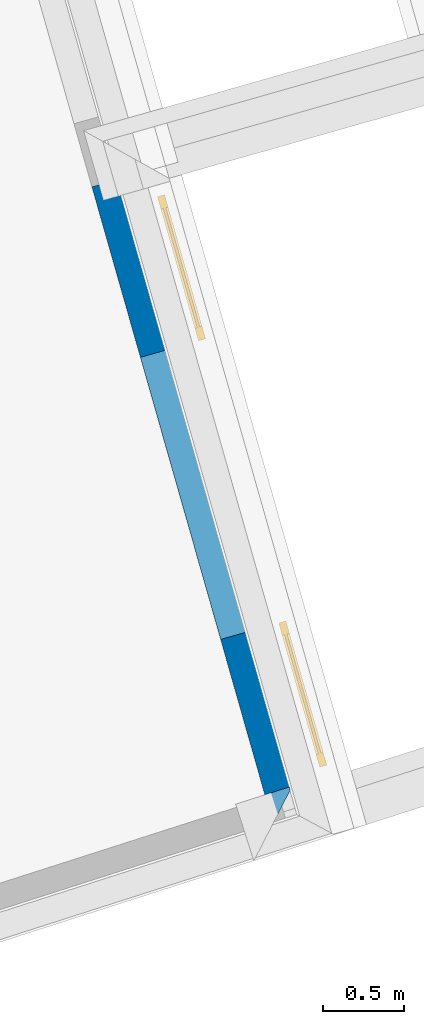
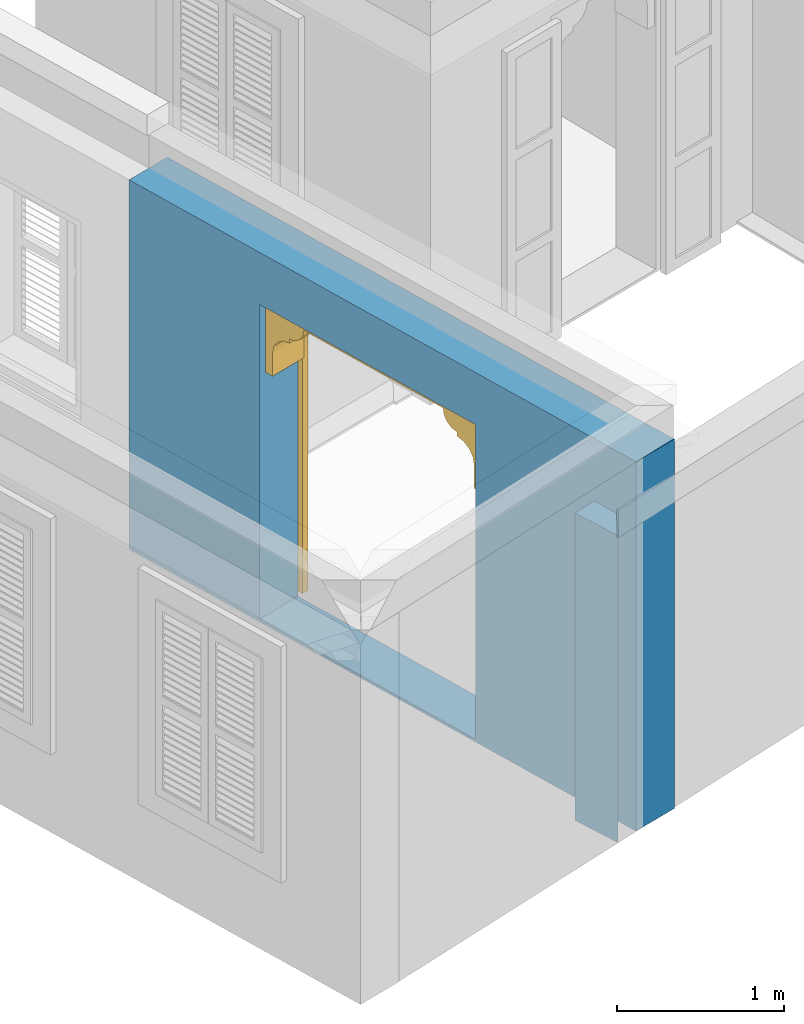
# One storey, part 2 of 13: 2 walls, 1 door, 1 opening.
"""IFC4 building model written with IfcOpenShell, lengths in metres."""

from ifc_helpers import new_model, si_unit, frame, origin, origin_with_axes, place, context, subcontext, project, spatial, polyline, outline, extrude, clip, halfspace, faceted_brep, source, transform, mapped, material, layer, layer_set, layer_usage, material_profile, profile_set, profile_usage, type_object, type_shapes, element, fill, save


model = new_model("IFC4")

# Units and contexts
model_context = context("Model", 3, world=origin_with_axes())
body_context = subcontext(model_context, "Body", "Model", "MODEL_VIEW")
ifc_project = project(units=[si_unit("PLANEANGLEUNIT", "RADIAN"), si_unit("MASSUNIT", "GRAM", prefix="KILO"), si_unit("FORCEUNIT", "NEWTON", prefix="KILO"), si_unit("LENGTHUNIT", "METRE"), si_unit("AREAUNIT", "SQUARE_METRE"), si_unit("VOLUMEUNIT", "CUBIC_METRE")], contexts=[model_context, model_context])

# Site, building, storey
site_placement = place(None, origin_with_axes())
site = spatial("IfcSite", under=ifc_project, at=site_placement, Name="Site plot-3", CompositionType="ELEMENT")
building_placement = place(None, origin_with_axes())
building = spatial("IfcBuilding", under=site, at=building_placement, Name="Building plot-3", CompositionType="ELEMENT")
storey_placement = place(None, frame((0.0, 0.0, 3.3), z_axis=(0.0, 0.0, 1.0), x_axis=(1.0, 0.0, 0.0)))
storey = spatial("IfcBuildingStorey", under=building, at=storey_placement, Name="plot-3 1", CompositionType="ELEMENT", Elevation=3.3)

# Wall, opening, door
ifc_material = material(Name="Masonry")
ifc_layer = layer(ifc_material, 0.33, ventilated=False)
ifc_layer_set = layer_set([ifc_layer], Name="exterior_0.08_0.25")
ifc_layer_usage = layer_usage(ifc_layer_set, "AXIS2", "POSITIVE", -0.25)
wall_type_1 = type_object("IfcWallType", Name="exterior_0.08_0.25", PredefinedType="SOLIDWALL", material=ifc_layer_set)
wall_1_placement = place(storey_placement, frame((12.6927444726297, 15.8757217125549, 0.0), z_axis=(0.0, 0.0, 1.0), x_axis=(-0.273606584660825, 0.961841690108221, 0.0)))
wall_1 = element("IfcWall", 1, at=wall_1_placement, inside=storey, type_object=wall_type_1, material=ifc_layer_usage, Name="exterior", context=body_context, shape_type="SweptSolid", body=[
    extrude(outline(polyline([(-0.25, 0.0800000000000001), (-0.25, -0.25), (3.97731813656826, -0.250000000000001), (3.97731813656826, 0.0800000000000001), (-0.25, 0.0800000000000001)])), origin_with_axes(), (0.0, 0.0, 1.0), 2.7),
])
opening_placement = place(wall_1_placement, frame((1.08865906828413, 0.0, 0.02)))
opening = element("IfcOpeningElement", 2, at=opening_placement, cuts=wall_1, Name="My Opening", ObjectType="Opening", context=body_context, shape_type="SweptSolid", body=[
    extrude(outline(polyline([(0.0, -0.270000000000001), (1.8, -0.27), (1.8, 1.1), (-1.99840144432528e-15, 1.1), (0.0, -0.270000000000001)])), origin_with_axes(), (0.0, 0.0, 1.0), 2.3),
])
door_type = type_object("IfcDoorType", Name="arch-1800x2300", OperationType="SINGLE_SWING_LEFT", PredefinedType="NOTDEFINED")
shared_shape = source(origin(), body_context, "Body", "Brep", [
    faceted_brep([(-0.08, -0.02, 0.08), (-0.08, -0.02, 0.0), (-0.84, -0.02, 0.0), (-0.84, -0.02, 0.08), (-0.92, -0.02, 0.0), (-0.92, -0.02, 0.08), (-0.84, -0.035, 0.08), (-0.08, -0.035, 0.08), (0.0, -0.02, 0.08), (0.0, -0.02, 0.0), (-0.08, -0.066, 0.0), (-0.84, -0.066, 0.0), (-0.92, -0.066, 0.0), (-0.92, -0.066, 0.08), (-0.84, -0.02, 0.743333), (-0.92, -0.02, 0.743333), (-0.84, -0.035, 0.743333), (-0.08, -0.035, 0.743333), (-0.08, -0.02, 0.743333), (0.0, -0.02, 0.743333), (0.0, -0.066, 0.08), (0.0, -0.066, 0.0), (-0.84, -0.066, 0.08), (-0.08, -0.066, 0.08), (-0.92, -0.066, 0.743333), (-0.84, -0.02, 0.823333), (-0.92, -0.02, 0.823333), (0.0, -0.066, 0.743333), (0.0, -0.02, 0.823333), (-0.08, -0.02, 0.823333), (-0.08, -0.051, 0.08), (-0.84, -0.051, 0.08), (-0.84, -0.066, 0.743333), (-0.92, -0.066, 0.823333), (-0.84, -0.02, 1.486667), (-0.92, -0.02, 1.486667), (0.0, -0.066, 0.823333), (-0.08, -0.066, 0.743333), (0.0, -0.02, 1.486667), (-0.08, -0.02, 1.486667), (-0.08, -0.051, 0.743333), (-0.84, -0.051, 0.743333), (-0.84, -0.066, 0.823333), (-0.92, -0.066, 1.486667), (-0.84, -0.035, 0.823333), (-0.08, -0.035, 0.823333), (-0.84, -0.035, 1.486667), (-0.84, -0.02, 1.566667), (-0.92, -0.02, 1.566667), (0.0, -0.066, 1.486667), (-0.08, -0.066, 0.823333), (-0.08, -0.035, 1.486667), (0.0, -0.02, 1.566667), (-0.08, -0.02, 1.566667), (-0.84, -0.066, 1.486667), (-0.92, -0.066, 1.566667), (-0.84, -0.02, 2.23), (-0.92, -0.02, 2.23), (0.0, -0.066, 1.566667), (-0.08, -0.066, 1.486667), (0.0, -0.02, 2.23), (-0.08, -0.02, 2.23), (-0.08, -0.051, 0.823333), (-0.84, -0.051, 0.823333), (-0.84, -0.051, 1.486667), (-0.84, -0.066, 1.566667), (-0.92, -0.066, 2.23), (-0.84, -0.035, 1.566667), (-0.08, -0.035, 1.566667), (-0.84, -0.035, 2.23), (-0.84, -0.02, 2.31), (-0.92, -0.02, 2.31), (0.0, -0.066, 2.23), (-0.08, -0.066, 1.566667), (-0.08, -0.051, 1.486667), (-0.08, -0.035, 2.23), (0.0, -0.02, 2.31), (-0.08, -0.02, 2.31), (-0.84, -0.066, 2.23), (-0.92, -0.066, 2.31), (-0.84, -0.066, 2.31), (0.0, -0.066, 2.31), (-0.08, -0.066, 2.23), (-0.08, -0.066, 2.31), (-0.08, -0.051, 1.566667), (-0.84, -0.051, 1.566667), (-0.84, -0.051, 2.23), (-0.08, -0.051, 2.23), (2.64, -0.02, 0.08), (2.64, -0.02, 0.0), (1.88, -0.02, 0.0), (1.88, -0.02, 0.08), (2.72, -0.02, 0.08), (2.72, -0.02, 0.0), (1.88, -0.035, 0.08), (2.64, -0.035, 0.08), (1.8, -0.02, 0.0), (1.8, -0.02, 0.08), (2.64, -0.066, 0.0), (1.88, -0.066, 0.0), (2.72, -0.066, 0.08), (2.72, -0.066, 0.0), (2.72, -0.02, 0.743333), (2.64, -0.02, 0.743333), (2.64, -0.035, 0.743333), (1.88, -0.035, 0.743333), (1.88, -0.02, 0.743333), (1.8, -0.02, 0.743333), (1.8, -0.066, 0.0), (1.8, -0.066, 0.08), (1.88, -0.066, 0.08), (2.64, -0.066, 0.08), (2.72, -0.066, 0.743333), (2.72, -0.02, 0.823333), (2.64, -0.02, 0.823333), (1.8, -0.066, 0.743333), (1.88, -0.02, 0.823333), (1.8, -0.02, 0.823333), (2.64, -0.051, 0.08), (1.88, -0.051, 0.08), (2.64, -0.066, 0.743333), (2.72, -0.066, 0.823333), (2.72, -0.02, 1.486667), (2.64, -0.02, 1.486667), (1.8, -0.066, 0.823333), (1.88, -0.066, 0.743333), (1.88, -0.02, 1.486667), (1.8, -0.02, 1.486667), (1.88, -0.051, 0.743333), (2.64, -0.051, 0.743333), (2.64, -0.066, 0.823333), (2.72, -0.066, 1.486667), (1.88, -0.035, 0.823333), (2.64, -0.035, 0.823333), (2.64, -0.035, 1.486667), (2.72, -0.02, 1.566667), (2.64, -0.02, 1.566667), (1.8, -0.066, 1.486667), (1.88, -0.066, 0.823333), (1.88, -0.035, 1.486667), (1.88, -0.02, 1.566667), (1.8, -0.02, 1.566667), (2.64, -0.066, 1.486667), (2.72, -0.066, 1.566667), (2.72, -0.02, 2.23), (2.64, -0.02, 2.23), (1.8, -0.066, 1.566667), (1.88, -0.066, 1.486667), (1.88, -0.02, 2.23), (1.8, -0.02, 2.23), (2.64, -0.051, 0.823333), (1.88, -0.051, 0.823333), (2.64, -0.051, 1.486667), (2.64, -0.066, 1.566667), (2.72, -0.066, 2.23), (1.88, -0.035, 1.566667), (2.64, -0.035, 1.566667), (2.64, -0.035, 2.23), (2.72, -0.02, 2.31), (2.64, -0.02, 2.31), (1.8, -0.066, 2.23), (1.88, -0.066, 1.566667), (1.88, -0.051, 1.486667), (1.88, -0.035, 2.23), (1.88, -0.02, 2.31), (1.8, -0.02, 2.31), (2.64, -0.066, 2.23), (2.72, -0.066, 2.31), (2.64, -0.066, 2.31), (1.8, -0.066, 2.31), (1.88, -0.066, 2.23), (1.88, -0.066, 2.31), (2.64, -0.051, 1.566667), (1.88, -0.051, 1.566667), (2.64, -0.051, 2.23), (1.88, -0.051, 2.23), (1.8, 0.03, 1.78), (1.8, 0.03, 1.95), (1.74, 0.03, 1.95), (1.74, 0.03, 1.78), (1.74, 0.3, 1.95), (1.74, 0.3, 1.78), (1.8, 0.03, 2.12), (1.729, 0.03, 2.004), (1.8, 0.3, 1.78), (1.8, 0.3, 1.95), (1.729, 0.3, 2.004), (1.699, 0.03, 2.049), (1.8, 0.3, 2.12), (1.699, 0.3, 2.049), (1.654, 0.03, 2.079), (1.8, 0.3, 2.29), (1.8, 0.03, 2.29), (1.654, 0.3, 2.079), (1.6, 0.03, 2.09), (1.6, 0.03, 2.12), (1.554, 0.03, 2.129), (1.48, 0.3, 2.29), (1.48, 0.03, 2.29), (1.6, 0.3, 2.12), (1.554, 0.3, 2.129), (1.6, 0.3, 2.09), (1.515, 0.03, 2.155), (1.489, 0.3, 2.194), (1.48, 0.3, 2.24), (1.48, 0.03, 2.24), (1.489, 0.03, 2.194), (1.515, 0.3, 2.155), (0.06, 0.03, 1.78), (0.06, 0.03, 1.95), (0.0, 0.03, 1.95), (0.0, 0.03, 1.78), (0.06, 0.3, 1.78), (0.06, 0.3, 1.95), (0.071, 0.03, 2.004), (0.0, 0.03, 2.12), (0.0, 0.3, 1.95), (0.0, 0.3, 1.78), (0.071, 0.3, 2.004), (0.101, 0.03, 2.049), (0.0, 0.3, 2.12), (0.101, 0.3, 2.049), (0.146, 0.03, 2.079), (0.0, 0.03, 2.29), (0.0, 0.3, 2.29), (0.146, 0.3, 2.079), (0.2, 0.03, 2.12), (0.2, 0.03, 2.09), (0.246, 0.03, 2.129), (0.32, 0.03, 2.29), (0.32, 0.3, 2.29), (0.246, 0.3, 2.129), (0.2, 0.3, 2.12), (0.2, 0.3, 2.09), (0.285, 0.03, 2.155), (0.32, 0.3, 2.24), (0.311, 0.3, 2.194), (0.311, 0.03, 2.194), (0.32, 0.03, 2.24), (0.285, 0.3, 2.155)], [[[0, 1, 2, 3]], [[4, 5, 3, 2]], [[0, 3, 6, 7]], [[1, 0, 8, 9]], [[2, 1, 10, 11]], [[5, 4, 12, 13]], [[14, 3, 5, 15]], [[4, 2, 11, 12]], [[3, 14, 16, 6]], [[6, 16, 17, 7]], [[18, 0, 7, 17]], [[0, 18, 19, 8]], [[9, 8, 20, 21]], [[1, 9, 21, 10]], [[22, 11, 10, 23]], [[13, 12, 11, 22]], [[15, 5, 13, 24]], [[25, 14, 15, 26]], [[14, 18, 17, 16]], [[8, 19, 27, 20]], [[28, 19, 18, 29]], [[23, 10, 21, 20]], [[22, 23, 30, 31]], [[22, 32, 24, 13]], [[26, 15, 24, 33]], [[29, 18, 14, 25]], [[34, 25, 26, 35]], [[19, 28, 36, 27]], [[20, 27, 37, 23]], [[38, 28, 29, 39]], [[23, 37, 40, 30]], [[41, 31, 30, 40]], [[32, 22, 31, 41]], [[32, 42, 33, 24]], [[35, 26, 33, 43]], [[29, 25, 44, 45]], [[25, 34, 46, 44]], [[47, 34, 35, 48]], [[28, 38, 49, 36]], [[27, 36, 50, 37]], [[39, 29, 45, 51]], [[52, 38, 39, 53]], [[37, 32, 41, 40]], [[37, 50, 42, 32]], [[42, 54, 43, 33]], [[48, 35, 43, 55]], [[44, 46, 51, 45]], [[34, 39, 51, 46]], [[34, 47, 53, 39]], [[56, 47, 48, 57]], [[38, 52, 58, 49]], [[36, 49, 59, 50]], [[60, 52, 53, 61]], [[42, 50, 62, 63]], [[54, 42, 63, 64]], [[54, 65, 55, 43]], [[57, 48, 55, 66]], [[53, 47, 67, 68]], [[47, 56, 69, 67]], [[70, 56, 57, 71]], [[52, 60, 72, 58]], [[49, 58, 73, 59]], [[50, 59, 74, 62]], [[61, 53, 68, 75]], [[76, 60, 61, 77]], [[64, 63, 62, 74]], [[59, 54, 64, 74]], [[65, 54, 59, 73]], [[65, 78, 66, 55]], [[71, 57, 66, 79]], [[67, 69, 75, 68]], [[56, 61, 75, 69]], [[77, 61, 56, 70]], [[70, 71, 79, 80]], [[60, 76, 81, 72]], [[58, 72, 82, 73]], [[76, 77, 83, 81]], [[65, 73, 84, 85]], [[78, 65, 85, 86]], [[78, 80, 79, 66]], [[77, 70, 80, 83]], [[72, 81, 83, 82]], [[73, 82, 87, 84]], [[86, 85, 84, 87]], [[82, 78, 86, 87]], [[82, 83, 80, 78]], [[88, 89, 90, 91]], [[89, 88, 92, 93]], [[94, 95, 88, 91]], [[96, 97, 91, 90]], [[98, 99, 90, 89]], [[100, 101, 93, 92]], [[102, 92, 88, 103]], [[101, 98, 89, 93]], [[95, 104, 103, 88]], [[94, 105, 104, 95]], [[105, 94, 91, 106]], [[97, 107, 106, 91]], [[108, 109, 97, 96]], [[99, 108, 96, 90]], [[110, 99, 98, 111]], [[111, 98, 101, 100]], [[112, 100, 92, 102]], [[113, 102, 103, 114]], [[104, 105, 106, 103]], [[109, 115, 107, 97]], [[116, 106, 107, 117]], [[109, 108, 99, 110]], [[118, 119, 110, 111]], [[100, 112, 120, 111]], [[121, 112, 102, 113]], [[114, 103, 106, 116]], [[122, 113, 114, 123]], [[115, 124, 117, 107]], [[110, 125, 115, 109]], [[126, 116, 117, 127]], [[119, 128, 125, 110]], [[128, 119, 118, 129]], [[129, 118, 111, 120]], [[112, 121, 130, 120]], [[131, 121, 113, 122]], [[132, 133, 114, 116]], [[133, 134, 123, 114]], [[135, 122, 123, 136]], [[124, 137, 127, 117]], [[125, 138, 124, 115]], [[139, 132, 116, 126]], [[140, 126, 127, 141]], [[128, 129, 120, 125]], [[120, 130, 138, 125]], [[121, 131, 142, 130]], [[143, 131, 122, 135]], [[132, 139, 134, 133]], [[134, 139, 126, 123]], [[126, 140, 136, 123]], [[144, 135, 136, 145]], [[137, 146, 141, 127]], [[138, 147, 137, 124]], [[148, 140, 141, 149]], [[150, 151, 138, 130]], [[152, 150, 130, 142]], [[131, 143, 153, 142]], [[154, 143, 135, 144]], [[155, 156, 136, 140]], [[156, 157, 145, 136]], [[158, 144, 145, 159]], [[146, 160, 149, 141]], [[147, 161, 146, 137]], [[151, 162, 147, 138]], [[163, 155, 140, 148]], [[164, 148, 149, 165]], [[162, 151, 150, 152]], [[162, 152, 142, 147]], [[161, 147, 142, 153]], [[143, 154, 166, 153]], [[167, 154, 144, 158]], [[155, 163, 157, 156]], [[157, 163, 148, 145]], [[159, 145, 148, 164]], [[168, 167, 158, 159]], [[160, 169, 165, 149]], [[161, 170, 160, 146]], [[169, 171, 164, 165]], [[172, 173, 161, 153]], [[174, 172, 153, 166]], [[154, 167, 168, 166]], [[171, 168, 159, 164]], [[170, 171, 169, 160]], [[173, 175, 170, 161]], [[175, 173, 172, 174]], [[175, 174, 166, 170]], [[166, 168, 171, 170]], [[176, 177, 178, 179]], [[180, 181, 179, 178]], [[177, 182, 183, 178]], [[177, 176, 184, 185]], [[181, 184, 176, 179]], [[181, 180, 185, 184]], [[186, 180, 178, 183]], [[182, 187, 183]], [[182, 177, 185, 188]], [[180, 186, 188, 185]], [[189, 186, 183, 187]], [[182, 190, 187]], [[188, 191, 192, 182]], [[188, 186, 189]], [[193, 189, 187, 190]], [[194, 190, 182, 195]], [[182, 192, 196, 195]], [[192, 191, 197, 198]], [[199, 200, 191, 188]], [[188, 189, 193]], [[201, 193, 190, 194]], [[199, 201, 194, 195]], [[200, 199, 195, 196]], [[192, 202, 196]], [[191, 203, 204, 197]], [[192, 198, 205, 206]], [[207, 191, 200]], [[199, 188, 193, 201]], [[207, 200, 196, 202]], [[192, 206, 202]], [[204, 203, 206, 205]], [[203, 191, 207]], [[203, 207, 202, 206]], [[208, 209, 210, 211]], [[209, 208, 212, 213]], [[209, 214, 215, 210]], [[211, 210, 216, 217]], [[208, 211, 217, 212]], [[217, 216, 213, 212]], [[214, 209, 213, 218]], [[214, 219, 215]], [[220, 216, 210, 215]], [[216, 220, 218, 213]], [[219, 214, 218, 221]], [[219, 222, 215]], [[215, 223, 224, 220]], [[221, 218, 220]], [[222, 219, 221, 225]], [[226, 215, 222, 227]], [[226, 228, 223, 215]], [[229, 230, 224, 223]], [[220, 224, 231, 232]], [[225, 221, 220]], [[227, 222, 225, 233]], [[226, 227, 233, 232]], [[228, 226, 232, 231]], [[228, 234, 223]], [[230, 235, 236, 224]], [[237, 238, 229, 223]], [[231, 224, 239]], [[233, 225, 220, 232]], [[234, 228, 231, 239]], [[234, 237, 223]], [[238, 237, 236, 235]], [[239, 224, 236]], [[237, 234, 239, 236]], [[238, 235, 204, 205]], [[235, 230, 197, 204]], [[229, 238, 205, 198]], [[230, 229, 198, 197]]]),
])
type_shapes(door_type, [shared_shape])
door_placement = place(storey_placement, frame((12.6545774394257, 16.9967131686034, 0.02), z_axis=(0.0, 0.0, 1.0), x_axis=(-0.492491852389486, 1.7313150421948, 0.0)))
door = element("IfcDoor", 3, at=door_placement, inside=storey, type_object=door_type, Name="circulation sahn door", OverallHeight=2.3, OverallWidth=1.8, context=body_context, shape_type="MappedRepresentation", body=[
    mapped(shared_shape, transform((0.0, 0.0, 0.0), scale=1.0)),
])
fill(opening, door)

# Wall
ifc_material_profile = material_profile(None, outline(polyline([(0.25, 0.0), (0.25, 2.245), (0.05, 2.245), (0.05, 0.02), (-0.08, 0.02), (-0.08, 0.0), (0.25, 0.0)])))
ifc_profile_set = profile_set([ifc_material_profile])
ifc_profile_usage = profile_usage(ifc_profile_set)
wall_type_2 = type_object("IfcWallType", Name="parapet party_0", PredefinedType="PARAPET", material=ifc_profile_set)
wall_2_placement = place(storey_placement, frame((12.9981377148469, 14.9234953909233, 0.0), z_axis=(-0.305393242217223, 0.952226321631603, 0.0), x_axis=(-0.952226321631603, -0.305393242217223, 0.0)))
element("IfcWall", 4, at=wall_2_placement, inside=storey, type_object=wall_type_2, material=ifc_profile_usage, Name="parapet party_0", context=body_context, shape_type="Clipping", body=[
    clip(clip(extrude(outline(polyline([(0.25, 0.0), (0.25, 2.245), (0.05, 2.245), (0.05, 0.02), (-0.08, 0.02), (-0.08, 0.0), (0.25, 0.0)])), origin_with_axes(), (0.0, 0.0, 1.0), 2.1), halfspace(frame((0.0, 0.0, 1.1), z_axis=(6.04901474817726e-16, 0.0, -1.0), x_axis=(0.0, 1.0, 0.0)), True)), halfspace(frame((0.0, 0.0, 1.0), z_axis=(-0.707106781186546, 0.0, -0.707106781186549), x_axis=(0.0, 1.0, 0.0)), False)),
])

save(model, "model.ifc")
